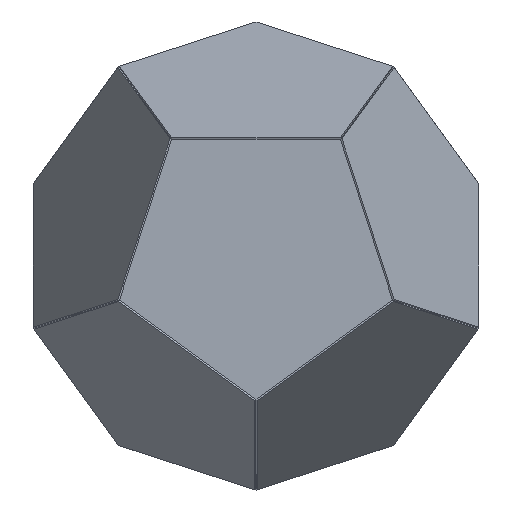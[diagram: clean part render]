
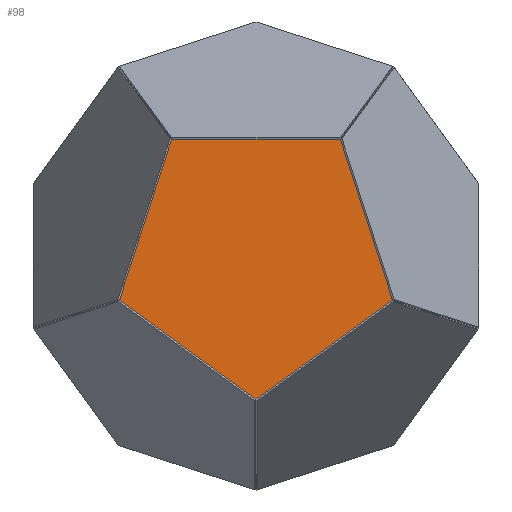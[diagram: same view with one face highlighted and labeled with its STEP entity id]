
A CAD part, top view. The second image highlights one B-rep face of the part: STEP entity #98.
In plain terms, the highlighted planar face has unit normal (0, 0, 1) as drawn and (0, 0, -1) by its records, which use the part's own axes.
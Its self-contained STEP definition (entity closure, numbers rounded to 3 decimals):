
#1=DIRECTION('',(-0.809,-0.588,0.));
#2=VECTOR('',#1,8.817);
#3=CARTESIAN_POINT('',(0.,7.5,0.));
#4=LINE('',#3,#2);
#5=DIRECTION('',(0.309,-0.951,0.));
#6=VECTOR('',#5,8.817);
#7=CARTESIAN_POINT('',(-7.133,2.318,0.));
#8=LINE('',#7,#6);
#9=DIRECTION('',(1.,0.,0.));
#10=VECTOR('',#9,8.817);
#11=CARTESIAN_POINT('',(-4.408,-6.068,0.));
#12=LINE('',#11,#10);
#13=DIRECTION('',(0.309,0.951,0.));
#14=VECTOR('',#13,8.817);
#15=CARTESIAN_POINT('',(4.408,-6.068,0.));
#16=LINE('',#15,#14);
#17=DIRECTION('',(-0.809,0.588,0.));
#18=VECTOR('',#17,8.817);
#19=CARTESIAN_POINT('',(7.133,2.318,0.));
#20=LINE('',#19,#18);
#61=CARTESIAN_POINT('',(0.,7.5,0.));
#62=CARTESIAN_POINT('',(-7.133,2.318,0.));
#63=VERTEX_POINT('',#61);
#64=VERTEX_POINT('',#62);
#65=CARTESIAN_POINT('',(-4.408,-6.068,0.));
#66=VERTEX_POINT('',#65);
#67=CARTESIAN_POINT('',(4.408,-6.068,0.));
#68=VERTEX_POINT('',#67);
#69=CARTESIAN_POINT('',(7.133,2.318,0.));
#70=VERTEX_POINT('',#69);
#81=CARTESIAN_POINT('',(0.,0.,0.));
#82=DIRECTION('',(0.,0.,1.));
#83=DIRECTION('',(1.,0.,0.));
#84=AXIS2_PLACEMENT_3D('',#81,#82,#83);
#85=PLANE('',#84);
#87=ORIENTED_EDGE('',*,*,#86,.T.);
#89=ORIENTED_EDGE('',*,*,#88,.T.);
#91=ORIENTED_EDGE('',*,*,#90,.T.);
#93=ORIENTED_EDGE('',*,*,#92,.T.);
#95=ORIENTED_EDGE('',*,*,#94,.T.);
#96=EDGE_LOOP('',(#87,#89,#91,#93,#95));
#97=FACE_OUTER_BOUND('',#96,.F.);
#98=ADVANCED_FACE('',(#97),#85,.F.);
#86=EDGE_CURVE('',#63,#64,#4,.T.);
#88=EDGE_CURVE('',#64,#66,#8,.T.);
#90=EDGE_CURVE('',#66,#68,#12,.T.);
#92=EDGE_CURVE('',#68,#70,#16,.T.);
#94=EDGE_CURVE('',#70,#63,#20,.T.);
